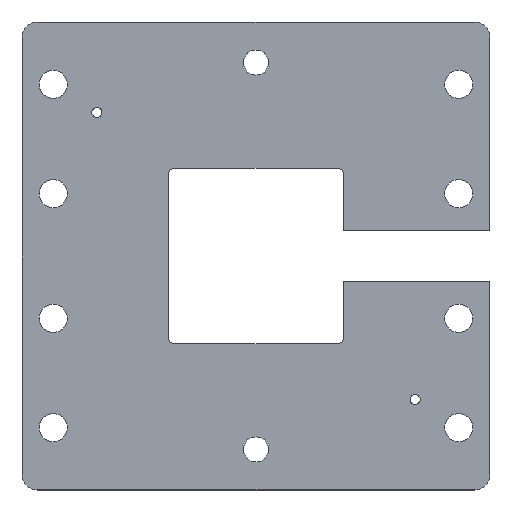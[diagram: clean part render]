
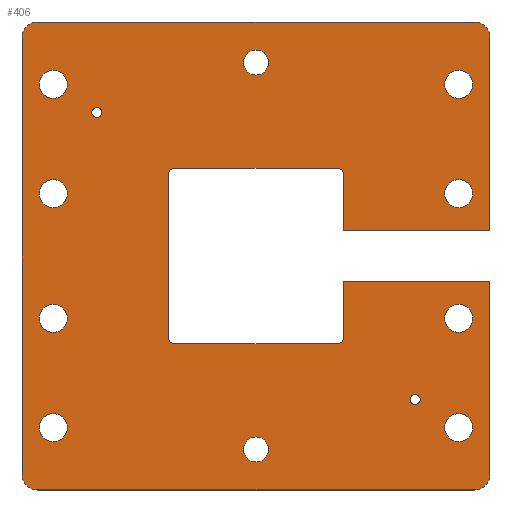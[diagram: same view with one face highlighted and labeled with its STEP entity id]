
A CAD part, top view. The second image highlights one B-rep face of the part: STEP entity #406.
In plain terms, the highlighted planar face has unit normal (0, 0, 1).
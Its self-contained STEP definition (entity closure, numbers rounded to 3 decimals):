
#24 = VERTEX_POINT('',#25);
#25 = CARTESIAN_POINT('',(-70.,-75.,0.35));
#31 = EDGE_CURVE('',#24,#32,#34,.T.);
#32 = VERTEX_POINT('',#33);
#33 = CARTESIAN_POINT('',(70.,-75.,0.35));
#34 = LINE('',#35,#36);
#35 = CARTESIAN_POINT('',(-70.,-75.,0.35));
#36 = VECTOR('',#37,1.);
#37 = DIRECTION('',(1.,0.,0.));
#64 = VERTEX_POINT('',#65);
#65 = CARTESIAN_POINT('',(-75.,-70.,0.35));
#71 = EDGE_CURVE('',#64,#24,#72,.T.);
#72 = CIRCLE('',#73,5.);
#73 = AXIS2_PLACEMENT_3D('',#74,#75,#76);
#74 = CARTESIAN_POINT('',(-70.,-70.,0.35));
#75 = DIRECTION('',(0.,0.,1.));
#76 = DIRECTION('',(1.,0.,0.));
#95 = EDGE_CURVE('',#32,#96,#98,.T.);
#96 = VERTEX_POINT('',#97);
#97 = CARTESIAN_POINT('',(75.,-70.,0.35));
#98 = CIRCLE('',#99,5.);
#99 = AXIS2_PLACEMENT_3D('',#100,#101,#102);
#100 = CARTESIAN_POINT('',(70.,-70.,0.35));
#101 = DIRECTION('',(0.,0.,1.));
#102 = DIRECTION('',(1.,0.,0.));
#406 = ADVANCED_FACE('',(#407,#552,#563,#574,#585,#596,#607,#618,#629,
    #640,#651,#662,#673),#684,.T.);
#407 = FACE_BOUND('',#408,.T.);
#408 = EDGE_LOOP('',(#409,#410,#411,#412,#420,#428,#436,#445,#453,#462,
    #470,#479,#487,#496,#504,#512,#520,#529,#537,#546));
#409 = ORIENTED_EDGE('',*,*,#71,.T.);
#410 = ORIENTED_EDGE('',*,*,#31,.T.);
#411 = ORIENTED_EDGE('',*,*,#95,.T.);
#412 = ORIENTED_EDGE('',*,*,#413,.T.);
#413 = EDGE_CURVE('',#96,#414,#416,.T.);
#414 = VERTEX_POINT('',#415);
#415 = CARTESIAN_POINT('',(75.,-8.05,0.35));
#416 = LINE('',#417,#418);
#417 = CARTESIAN_POINT('',(75.,-70.,0.35));
#418 = VECTOR('',#419,1.);
#419 = DIRECTION('',(0.,1.,0.));
#420 = ORIENTED_EDGE('',*,*,#421,.F.);
#421 = EDGE_CURVE('',#422,#414,#424,.T.);
#422 = VERTEX_POINT('',#423);
#423 = CARTESIAN_POINT('',(28.05,-8.05,0.35));
#424 = LINE('',#425,#426);
#425 = CARTESIAN_POINT('',(27.05,-8.05,0.35));
#426 = VECTOR('',#427,1.);
#427 = DIRECTION('',(1.,0.,0.));
#428 = ORIENTED_EDGE('',*,*,#429,.F.);
#429 = EDGE_CURVE('',#430,#422,#432,.T.);
#430 = VERTEX_POINT('',#431);
#431 = CARTESIAN_POINT('',(28.05,-26.,0.35));
#432 = LINE('',#433,#434);
#433 = CARTESIAN_POINT('',(28.05,-26.,0.35));
#434 = VECTOR('',#435,1.);
#435 = DIRECTION('',(0.,1.,0.));
#436 = ORIENTED_EDGE('',*,*,#437,.F.);
#437 = EDGE_CURVE('',#438,#430,#440,.T.);
#438 = VERTEX_POINT('',#439);
#439 = CARTESIAN_POINT('',(26.,-28.05,0.35));
#440 = CIRCLE('',#441,2.05);
#441 = AXIS2_PLACEMENT_3D('',#442,#443,#444);
#442 = CARTESIAN_POINT('',(26.,-26.,0.35));
#443 = DIRECTION('',(0.,0.,1.));
#444 = DIRECTION('',(1.,0.,0.));
#445 = ORIENTED_EDGE('',*,*,#446,.F.);
#446 = EDGE_CURVE('',#447,#438,#449,.T.);
#447 = VERTEX_POINT('',#448);
#448 = CARTESIAN_POINT('',(-26.,-28.05,0.35));
#449 = LINE('',#450,#451);
#450 = CARTESIAN_POINT('',(-26.,-28.05,0.35));
#451 = VECTOR('',#452,1.);
#452 = DIRECTION('',(1.,0.,0.));
#453 = ORIENTED_EDGE('',*,*,#454,.F.);
#454 = EDGE_CURVE('',#455,#447,#457,.T.);
#455 = VERTEX_POINT('',#456);
#456 = CARTESIAN_POINT('',(-28.05,-26.,0.35));
#457 = CIRCLE('',#458,2.05);
#458 = AXIS2_PLACEMENT_3D('',#459,#460,#461);
#459 = CARTESIAN_POINT('',(-26.,-26.,0.35));
#460 = DIRECTION('',(0.,0.,1.));
#461 = DIRECTION('',(1.,0.,0.));
#462 = ORIENTED_EDGE('',*,*,#463,.F.);
#463 = EDGE_CURVE('',#464,#455,#466,.T.);
#464 = VERTEX_POINT('',#465);
#465 = CARTESIAN_POINT('',(-28.05,26.,0.35));
#466 = LINE('',#467,#468);
#467 = CARTESIAN_POINT('',(-28.05,26.,0.35));
#468 = VECTOR('',#469,1.);
#469 = DIRECTION('',(0.,-1.,0.));
#470 = ORIENTED_EDGE('',*,*,#471,.F.);
#471 = EDGE_CURVE('',#472,#464,#474,.T.);
#472 = VERTEX_POINT('',#473);
#473 = CARTESIAN_POINT('',(-26.,28.05,0.35));
#474 = CIRCLE('',#475,2.05);
#475 = AXIS2_PLACEMENT_3D('',#476,#477,#478);
#476 = CARTESIAN_POINT('',(-26.,26.,0.35));
#477 = DIRECTION('',(0.,0.,1.));
#478 = DIRECTION('',(1.,0.,0.));
#479 = ORIENTED_EDGE('',*,*,#480,.F.);
#480 = EDGE_CURVE('',#481,#472,#483,.T.);
#481 = VERTEX_POINT('',#482);
#482 = CARTESIAN_POINT('',(26.,28.05,0.35));
#483 = LINE('',#484,#485);
#484 = CARTESIAN_POINT('',(26.,28.05,0.35));
#485 = VECTOR('',#486,1.);
#486 = DIRECTION('',(-1.,0.,0.));
#487 = ORIENTED_EDGE('',*,*,#488,.F.);
#488 = EDGE_CURVE('',#489,#481,#491,.T.);
#489 = VERTEX_POINT('',#490);
#490 = CARTESIAN_POINT('',(28.05,26.,0.35));
#491 = CIRCLE('',#492,2.05);
#492 = AXIS2_PLACEMENT_3D('',#493,#494,#495);
#493 = CARTESIAN_POINT('',(26.,26.,0.35));
#494 = DIRECTION('',(0.,0.,1.));
#495 = DIRECTION('',(1.,0.,0.));
#496 = ORIENTED_EDGE('',*,*,#497,.F.);
#497 = EDGE_CURVE('',#498,#489,#500,.T.);
#498 = VERTEX_POINT('',#499);
#499 = CARTESIAN_POINT('',(28.05,8.05,0.35));
#500 = LINE('',#501,#502);
#501 = CARTESIAN_POINT('',(28.05,-26.,0.35));
#502 = VECTOR('',#503,1.);
#503 = DIRECTION('',(0.,1.,0.));
#504 = ORIENTED_EDGE('',*,*,#505,.F.);
#505 = EDGE_CURVE('',#506,#498,#508,.T.);
#506 = VERTEX_POINT('',#507);
#507 = CARTESIAN_POINT('',(75.,8.05,0.35));
#508 = LINE('',#509,#510);
#509 = CARTESIAN_POINT('',(76.,8.05,0.35));
#510 = VECTOR('',#511,1.);
#511 = DIRECTION('',(-1.,0.,0.));
#512 = ORIENTED_EDGE('',*,*,#513,.T.);
#513 = EDGE_CURVE('',#506,#514,#516,.T.);
#514 = VERTEX_POINT('',#515);
#515 = CARTESIAN_POINT('',(75.,70.,0.35));
#516 = LINE('',#517,#518);
#517 = CARTESIAN_POINT('',(75.,-70.,0.35));
#518 = VECTOR('',#519,1.);
#519 = DIRECTION('',(0.,1.,0.));
#520 = ORIENTED_EDGE('',*,*,#521,.T.);
#521 = EDGE_CURVE('',#514,#522,#524,.T.);
#522 = VERTEX_POINT('',#523);
#523 = CARTESIAN_POINT('',(70.,75.,0.35));
#524 = CIRCLE('',#525,5.);
#525 = AXIS2_PLACEMENT_3D('',#526,#527,#528);
#526 = CARTESIAN_POINT('',(70.,70.,0.35));
#527 = DIRECTION('',(0.,0.,1.));
#528 = DIRECTION('',(1.,0.,0.));
#529 = ORIENTED_EDGE('',*,*,#530,.T.);
#530 = EDGE_CURVE('',#522,#531,#533,.T.);
#531 = VERTEX_POINT('',#532);
#532 = CARTESIAN_POINT('',(-70.,75.,0.35));
#533 = LINE('',#534,#535);
#534 = CARTESIAN_POINT('',(70.,75.,0.35));
#535 = VECTOR('',#536,1.);
#536 = DIRECTION('',(-1.,0.,0.));
#537 = ORIENTED_EDGE('',*,*,#538,.T.);
#538 = EDGE_CURVE('',#531,#539,#541,.T.);
#539 = VERTEX_POINT('',#540);
#540 = CARTESIAN_POINT('',(-75.,70.,0.35));
#541 = CIRCLE('',#542,5.);
#542 = AXIS2_PLACEMENT_3D('',#543,#544,#545);
#543 = CARTESIAN_POINT('',(-70.,70.,0.35));
#544 = DIRECTION('',(0.,0.,1.));
#545 = DIRECTION('',(1.,0.,0.));
#546 = ORIENTED_EDGE('',*,*,#547,.T.);
#547 = EDGE_CURVE('',#539,#64,#548,.T.);
#548 = LINE('',#549,#550);
#549 = CARTESIAN_POINT('',(-75.,70.,0.35));
#550 = VECTOR('',#551,1.);
#551 = DIRECTION('',(0.,-1.,0.));
#552 = FACE_BOUND('',#553,.T.);
#553 = EDGE_LOOP('',(#554));
#554 = ORIENTED_EDGE('',*,*,#555,.F.);
#555 = EDGE_CURVE('',#556,#556,#558,.T.);
#556 = VERTEX_POINT('',#557);
#557 = CARTESIAN_POINT('',(-60.5,-55.,0.35));
#558 = CIRCLE('',#559,4.5);
#559 = AXIS2_PLACEMENT_3D('',#560,#561,#562);
#560 = CARTESIAN_POINT('',(-65.,-55.,0.35));
#561 = DIRECTION('',(0.,0.,1.));
#562 = DIRECTION('',(1.,0.,0.));
#563 = FACE_BOUND('',#564,.T.);
#564 = EDGE_LOOP('',(#565));
#565 = ORIENTED_EDGE('',*,*,#566,.F.);
#566 = EDGE_CURVE('',#567,#567,#569,.T.);
#567 = VERTEX_POINT('',#568);
#568 = CARTESIAN_POINT('',(-60.5,-20.,0.35));
#569 = CIRCLE('',#570,4.5);
#570 = AXIS2_PLACEMENT_3D('',#571,#572,#573);
#571 = CARTESIAN_POINT('',(-65.,-20.,0.35));
#572 = DIRECTION('',(0.,0.,1.));
#573 = DIRECTION('',(1.,0.,0.));
#574 = FACE_BOUND('',#575,.T.);
#575 = EDGE_LOOP('',(#576));
#576 = ORIENTED_EDGE('',*,*,#577,.F.);
#577 = EDGE_CURVE('',#578,#578,#580,.T.);
#578 = VERTEX_POINT('',#579);
#579 = CARTESIAN_POINT('',(4.,-62.,0.35));
#580 = CIRCLE('',#581,4.);
#581 = AXIS2_PLACEMENT_3D('',#582,#583,#584);
#582 = CARTESIAN_POINT('',(0.,-62.,0.35));
#583 = DIRECTION('',(0.,0.,1.));
#584 = DIRECTION('',(1.,0.,0.));
#585 = FACE_BOUND('',#586,.T.);
#586 = EDGE_LOOP('',(#587));
#587 = ORIENTED_EDGE('',*,*,#588,.F.);
#588 = EDGE_CURVE('',#589,#589,#591,.T.);
#589 = VERTEX_POINT('',#590);
#590 = CARTESIAN_POINT('',(69.5,-55.,0.35));
#591 = CIRCLE('',#592,4.5);
#592 = AXIS2_PLACEMENT_3D('',#593,#594,#595);
#593 = CARTESIAN_POINT('',(65.,-55.,0.35));
#594 = DIRECTION('',(0.,0.,1.));
#595 = DIRECTION('',(1.,0.,0.));
#596 = FACE_BOUND('',#597,.T.);
#597 = EDGE_LOOP('',(#598));
#598 = ORIENTED_EDGE('',*,*,#599,.F.);
#599 = EDGE_CURVE('',#600,#600,#602,.T.);
#600 = VERTEX_POINT('',#601);
#601 = CARTESIAN_POINT('',(52.6,-46.,0.35));
#602 = CIRCLE('',#603,1.6);
#603 = AXIS2_PLACEMENT_3D('',#604,#605,#606);
#604 = CARTESIAN_POINT('',(51.,-46.,0.35));
#605 = DIRECTION('',(0.,0.,1.));
#606 = DIRECTION('',(1.,0.,0.));
#607 = FACE_BOUND('',#608,.T.);
#608 = EDGE_LOOP('',(#609));
#609 = ORIENTED_EDGE('',*,*,#610,.F.);
#610 = EDGE_CURVE('',#611,#611,#613,.T.);
#611 = VERTEX_POINT('',#612);
#612 = CARTESIAN_POINT('',(69.5,-20.,0.35));
#613 = CIRCLE('',#614,4.5);
#614 = AXIS2_PLACEMENT_3D('',#615,#616,#617);
#615 = CARTESIAN_POINT('',(65.,-20.,0.35));
#616 = DIRECTION('',(0.,0.,1.));
#617 = DIRECTION('',(1.,0.,0.));
#618 = FACE_BOUND('',#619,.T.);
#619 = EDGE_LOOP('',(#620));
#620 = ORIENTED_EDGE('',*,*,#621,.F.);
#621 = EDGE_CURVE('',#622,#622,#624,.T.);
#622 = VERTEX_POINT('',#623);
#623 = CARTESIAN_POINT('',(-60.5,20.,0.35));
#624 = CIRCLE('',#625,4.5);
#625 = AXIS2_PLACEMENT_3D('',#626,#627,#628);
#626 = CARTESIAN_POINT('',(-65.,20.,0.35));
#627 = DIRECTION('',(0.,0.,1.));
#628 = DIRECTION('',(1.,0.,0.));
#629 = FACE_BOUND('',#630,.T.);
#630 = EDGE_LOOP('',(#631));
#631 = ORIENTED_EDGE('',*,*,#632,.F.);
#632 = EDGE_CURVE('',#633,#633,#635,.T.);
#633 = VERTEX_POINT('',#634);
#634 = CARTESIAN_POINT('',(-49.4,46.,0.35));
#635 = CIRCLE('',#636,1.6);
#636 = AXIS2_PLACEMENT_3D('',#637,#638,#639);
#637 = CARTESIAN_POINT('',(-51.,46.,0.35));
#638 = DIRECTION('',(0.,0.,1.));
#639 = DIRECTION('',(1.,0.,0.));
#640 = FACE_BOUND('',#641,.T.);
#641 = EDGE_LOOP('',(#642));
#642 = ORIENTED_EDGE('',*,*,#643,.F.);
#643 = EDGE_CURVE('',#644,#644,#646,.T.);
#644 = VERTEX_POINT('',#645);
#645 = CARTESIAN_POINT('',(-60.5,55.,0.35));
#646 = CIRCLE('',#647,4.5);
#647 = AXIS2_PLACEMENT_3D('',#648,#649,#650);
#648 = CARTESIAN_POINT('',(-65.,55.,0.35));
#649 = DIRECTION('',(0.,0.,1.));
#650 = DIRECTION('',(1.,0.,0.));
#651 = FACE_BOUND('',#652,.T.);
#652 = EDGE_LOOP('',(#653));
#653 = ORIENTED_EDGE('',*,*,#654,.F.);
#654 = EDGE_CURVE('',#655,#655,#657,.T.);
#655 = VERTEX_POINT('',#656);
#656 = CARTESIAN_POINT('',(69.5,20.,0.35));
#657 = CIRCLE('',#658,4.5);
#658 = AXIS2_PLACEMENT_3D('',#659,#660,#661);
#659 = CARTESIAN_POINT('',(65.,20.,0.35));
#660 = DIRECTION('',(0.,0.,1.));
#661 = DIRECTION('',(1.,0.,0.));
#662 = FACE_BOUND('',#663,.T.);
#663 = EDGE_LOOP('',(#664));
#664 = ORIENTED_EDGE('',*,*,#665,.F.);
#665 = EDGE_CURVE('',#666,#666,#668,.T.);
#666 = VERTEX_POINT('',#667);
#667 = CARTESIAN_POINT('',(4.,62.,0.35));
#668 = CIRCLE('',#669,4.);
#669 = AXIS2_PLACEMENT_3D('',#670,#671,#672);
#670 = CARTESIAN_POINT('',(0.,62.,0.35));
#671 = DIRECTION('',(0.,0.,1.));
#672 = DIRECTION('',(1.,0.,0.));
#673 = FACE_BOUND('',#674,.T.);
#674 = EDGE_LOOP('',(#675));
#675 = ORIENTED_EDGE('',*,*,#676,.F.);
#676 = EDGE_CURVE('',#677,#677,#679,.T.);
#677 = VERTEX_POINT('',#678);
#678 = CARTESIAN_POINT('',(69.5,55.,0.35));
#679 = CIRCLE('',#680,4.5);
#680 = AXIS2_PLACEMENT_3D('',#681,#682,#683);
#681 = CARTESIAN_POINT('',(65.,55.,0.35));
#682 = DIRECTION('',(0.,0.,1.));
#683 = DIRECTION('',(1.,0.,0.));
#684 = PLANE('',#685);
#685 = AXIS2_PLACEMENT_3D('',#686,#687,#688);
#686 = CARTESIAN_POINT('',(0.,0.,0.35)
  );
#687 = DIRECTION('',(0.,0.,1.));
#688 = DIRECTION('',(1.,0.,0.));
